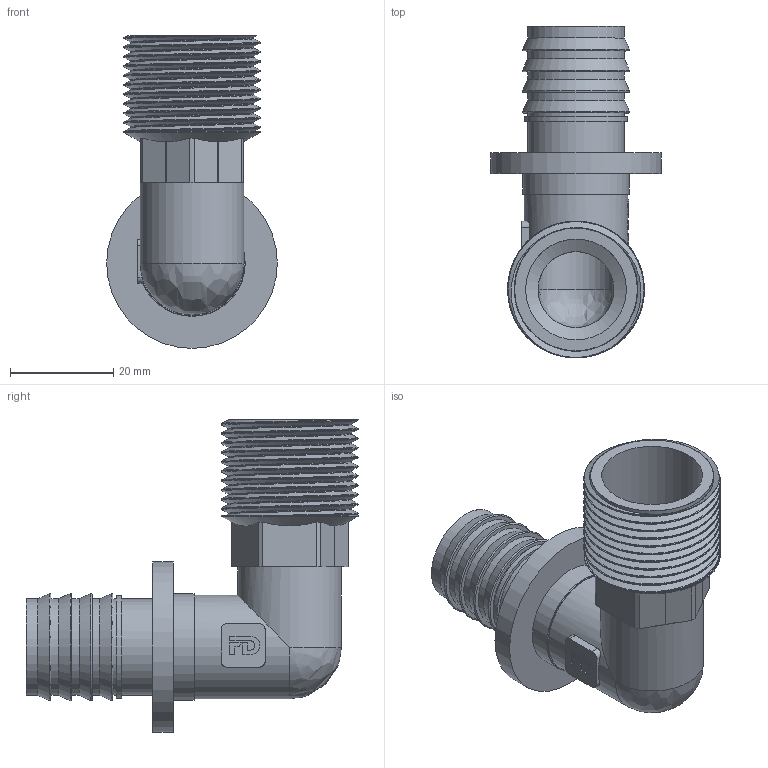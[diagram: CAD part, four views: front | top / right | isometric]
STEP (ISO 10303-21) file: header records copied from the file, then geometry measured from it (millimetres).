
FILE_DESCRIPTION(/* description */ (''),/* implementation_level */ '2;1');
FILE_NAME(/* name */ 'C:\Users\Doom\Desktop\Фадотех\Натяжка\SFU14_NEW 25x0.75M 29.05.2020\SFU14_NEW 25x0.75M 29.05.2020.stp',/* time_stamp */ '2022-07-26T13:21:31+03:00',/* author */ ('Doom'),/* organization */ (''),/* preprocessor_version */ 'ST-DEVELOPER v18',/* originating_system */ 'Autodesk Inventor 2020',/* authorisation */ '');
FILE_SCHEMA (('AUTOMOTIVE_DESIGN { 1 0 10303 214 3 1 1 }'));
Length unit declared in the file: millimetre
Products named in the file (1): FD-SFU03NEW 25 24.12.2019
Bounding box: 33 x 64.22 x 60.5 mm (x, y, z)
Volume: 16951.6 mm3; surface area: 17392.7 mm2
Topology: 3 solids, 3 shells, 218 faces, 615 edges, 414 vertices
Faces by surface type: plane 84, bspline 75, cylinder 47, cone 8, torus 4
Full cylindrical faces by diameter (mm): 14.7 x3, 18.626 x2, 18.7 x4, 18.705 x1, 19.5 x1, 19.9 x1, 20 x2, 20.6 x1, 23.75 x2, 26.44 x11, 33 x1
Entity records: 14158 total; most frequent: CARTESIAN_POINT 8956, ORIENTED_EDGE 1222, DIRECTION 842, EDGE_CURVE 611, VERTEX_POINT 414, AXIS2_PLACEMENT_3D 290, LINE 262, VECTOR 262
